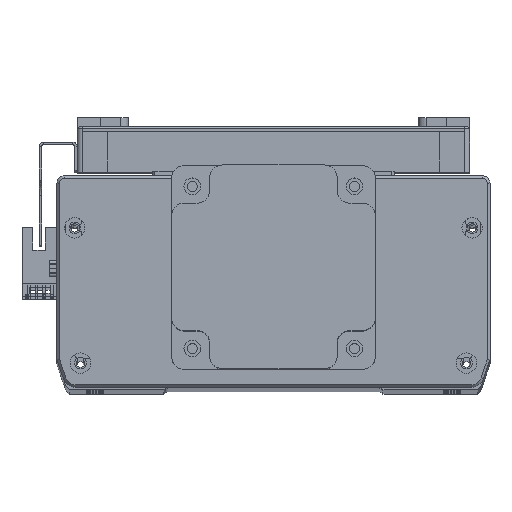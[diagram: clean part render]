
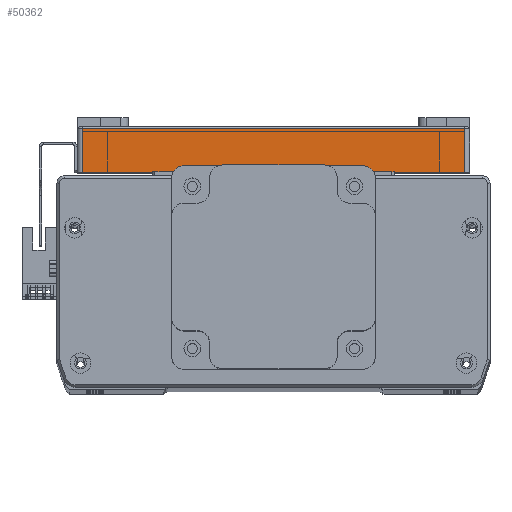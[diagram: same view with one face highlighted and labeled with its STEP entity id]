
A CAD part, top view. The second image highlights one B-rep face of the part: STEP entity #50362.
In plain terms, the highlighted planar face has unit normal (0, 0, 1) as drawn and (-1, 0, 0) by its records, which use the part's own axes.
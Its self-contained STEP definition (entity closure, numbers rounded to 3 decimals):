
#579 = FACE_OUTER_BOUND ( 'NONE', #23690, .T. ) ;
#7312 = VERTEX_POINT ( 'NONE', #52230 ) ;
#7351 = VERTEX_POINT ( 'NONE', #52309 ) ;
#7374 = VERTEX_POINT ( 'NONE', #52280 ) ;
#8352 = AXIS2_PLACEMENT_3D ( 'NONE', #55478, #55474, #55473 ) ;
#11841 = VERTEX_POINT ( 'NONE', #52710 ) ;
#23690 = EDGE_LOOP ( 'NONE', ( #51470, #51463, #51448, #48264 ) ) ;
#25642 = CARTESIAN_POINT ( 'NONE',  ( -115., 18., -75. ) ) ;
#25666 = CARTESIAN_POINT ( 'NONE',  ( -115., 0., -77. ) ) ;
#25673 = DIRECTION ( 'NONE',  ( 0., -1., 0. ) ) ;
#25687 = CARTESIAN_POINT ( 'NONE',  ( -115., 18., 75. ) ) ;
#25693 = DIRECTION ( 'NONE',  ( 0., 0., -1. ) ) ;
#25702 = DIRECTION ( 'NONE',  ( 0., 1., 0. ) ) ;
#25714 = CARTESIAN_POINT ( 'NONE',  ( -115., 17., -75. ) ) ;
#25719 = DIRECTION ( 'NONE',  ( 0., 0., 1. ) ) ;
#29075 = LINE ( 'NONE', #25666, #29078 ) ;
#29076 = VECTOR ( 'NONE', #25673, 1000. ) ;
#29078 = VECTOR ( 'NONE', #25719, 1000. ) ;
#29099 = LINE ( 'NONE', #25642, #29076 ) ;
#29141 = VECTOR ( 'NONE', #25693, 1000. ) ;
#29149 = LINE ( 'NONE', #25687, #29163 ) ;
#29158 = LINE ( 'NONE', #25714, #29141 ) ;
#29163 = VECTOR ( 'NONE', #25702, 1000. ) ;
#30500 = EDGE_CURVE ( 'NONE', #7312, #7351, #29099, .T. ) ;
#30512 = EDGE_CURVE ( 'NONE', #7351, #11841, #29075, .T. ) ;
#30522 = EDGE_CURVE ( 'NONE', #7374, #7312, #29158, .T. ) ;
#30528 = EDGE_CURVE ( 'NONE', #11841, #7374, #29149, .T. ) ;
#48264 = ORIENTED_EDGE ( 'NONE', *, *, #30512, .T. ) ;
#50362 = ADVANCED_FACE ( 'NONE', ( #579 ), #55488, .F. ) ;
#51448 = ORIENTED_EDGE ( 'NONE', *, *, #30500, .T. ) ;
#51463 = ORIENTED_EDGE ( 'NONE', *, *, #30522, .T. ) ;
#51470 = ORIENTED_EDGE ( 'NONE', *, *, #30528, .T. ) ;
#52230 = CARTESIAN_POINT ( 'NONE',  ( -115., 17., -75. ) ) ;
#52280 = CARTESIAN_POINT ( 'NONE',  ( -115., 17., 75. ) ) ;
#52309 = CARTESIAN_POINT ( 'NONE',  ( -115., 0., -75. ) ) ;
#52710 = CARTESIAN_POINT ( 'NONE',  ( -115., 0., 75. ) ) ;
#55473 = DIRECTION ( 'NONE',  ( 0., 0., -1. ) ) ;
#55474 = DIRECTION ( 'NONE',  ( 1., 0., 0. ) ) ;
#55478 = CARTESIAN_POINT ( 'NONE',  ( -115., 18., -77. ) ) ;
#55488 = PLANE ( 'NONE',  #8352 ) ;
